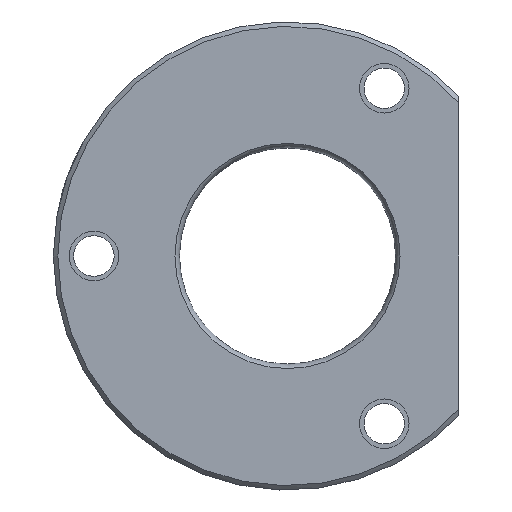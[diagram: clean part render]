
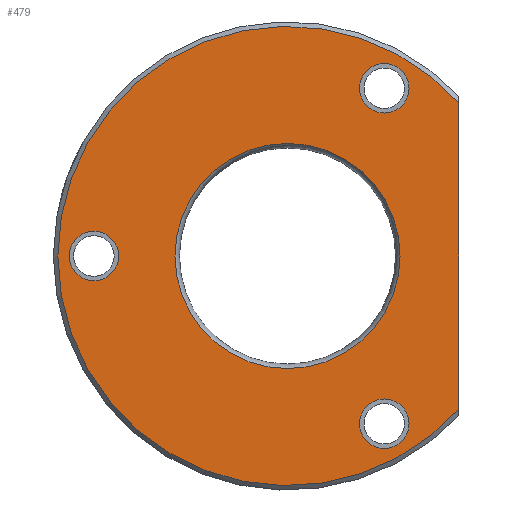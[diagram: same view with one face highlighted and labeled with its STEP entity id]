
A CAD part, left-side view. The second image highlights one B-rep face of the part: STEP entity #479.
In plain terms, the highlighted planar face has unit normal (-1, 0, 0).
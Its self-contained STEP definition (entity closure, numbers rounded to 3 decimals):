
#40=FACE_BOUND('',#161,.T.);
#41=FACE_BOUND('',#162,.T.);
#42=FACE_BOUND('',#163,.T.);
#43=FACE_BOUND('',#164,.T.);
#52=PLANE('',#552);
#55=LINE('',#738,#73);
#73=VECTOR('',#595,10.);
#123=FACE_OUTER_BOUND('',#160,.T.);
#160=EDGE_LOOP('',(#391,#392));
#161=EDGE_LOOP('',(#393));
#162=EDGE_LOOP('',(#394));
#163=EDGE_LOOP('',(#395));
#164=EDGE_LOOP('',(#396));
#182=CIRCLE('',#523,51.);
#189=CIRCLE('',#534,5.5);
#192=CIRCLE('',#540,5.5);
#195=CIRCLE('',#546,5.5);
#197=CIRCLE('',#551,25.);
#214=VERTEX_POINT('',#733);
#215=VERTEX_POINT('',#737);
#227=VERTEX_POINT('',#843);
#230=VERTEX_POINT('',#854);
#233=VERTEX_POINT('',#865);
#235=VERTEX_POINT('',#875);
#257=EDGE_CURVE('',#215,#214,#55,.T.);
#264=EDGE_CURVE('',#215,#214,#182,.T.);
#274=EDGE_CURVE('',#227,#227,#189,.T.);
#279=EDGE_CURVE('',#230,#230,#192,.T.);
#284=EDGE_CURVE('',#233,#233,#195,.T.);
#290=EDGE_CURVE('',#235,#235,#197,.T.);
#391=ORIENTED_EDGE('',*,*,#264,.F.);
#392=ORIENTED_EDGE('',*,*,#257,.T.);
#393=ORIENTED_EDGE('',*,*,#274,.T.);
#394=ORIENTED_EDGE('',*,*,#279,.T.);
#395=ORIENTED_EDGE('',*,*,#284,.T.);
#396=ORIENTED_EDGE('',*,*,#290,.T.);
#479=ADVANCED_FACE('',(#123,#40,#41,#42,#43),#52,.T.);
#523=AXIS2_PLACEMENT_3D('',#787,#604,#605);
#534=AXIS2_PLACEMENT_3D('',#844,#627,#628);
#540=AXIS2_PLACEMENT_3D('',#855,#641,#642);
#546=AXIS2_PLACEMENT_3D('',#866,#655,#656);
#551=AXIS2_PLACEMENT_3D('',#877,#669,#670);
#552=AXIS2_PLACEMENT_3D('',#878,#671,#672);
#595=DIRECTION('',(0.,0.,1.));
#604=DIRECTION('center_axis',(1.,0.,0.));
#605=DIRECTION('ref_axis',(0.,1.,0.));
#627=DIRECTION('center_axis',(1.,0.,0.));
#628=DIRECTION('ref_axis',(0.,0.,1.));
#641=DIRECTION('center_axis',(1.,0.,0.));
#642=DIRECTION('ref_axis',(0.,0.,1.));
#655=DIRECTION('center_axis',(1.,0.,0.));
#656=DIRECTION('ref_axis',(0.,0.,1.));
#669=DIRECTION('center_axis',(1.,0.,0.));
#670=DIRECTION('ref_axis',(0.,0.,-1.));
#671=DIRECTION('center_axis',(-1.,0.,0.));
#672=DIRECTION('ref_axis',(0.,0.,1.));
#733=CARTESIAN_POINT('',(0.,-38.,34.015));
#737=CARTESIAN_POINT('',(0.,-38.,-34.015));
#738=CARTESIAN_POINT('',(0.,-38.,0.));
#787=CARTESIAN_POINT('Origin',(0.,0.,0.));
#843=CARTESIAN_POINT('',(0.,-21.5,31.739));
#844=CARTESIAN_POINT('Origin',(0.,-21.5,37.239));
#854=CARTESIAN_POINT('',(0.,-21.5,-42.739));
#855=CARTESIAN_POINT('Origin',(0.,-21.5,-37.239));
#865=CARTESIAN_POINT('',(0.,43.,-5.5));
#866=CARTESIAN_POINT('Origin',(0.,43.,0.));
#875=CARTESIAN_POINT('',(0.,-25.,0.));
#877=CARTESIAN_POINT('Origin',(0.,0.,0.));
#878=CARTESIAN_POINT('Origin',(0.,52.,0.));
